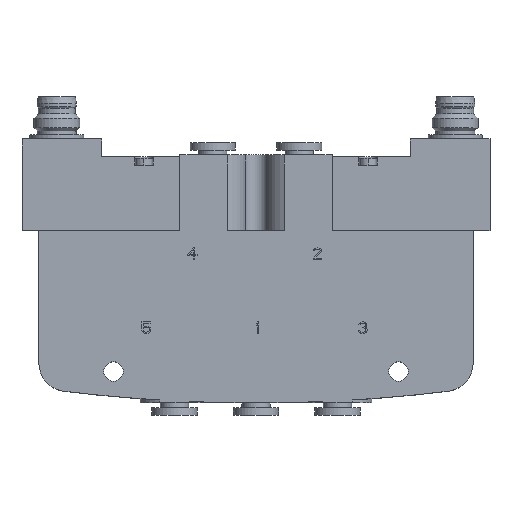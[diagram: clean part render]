
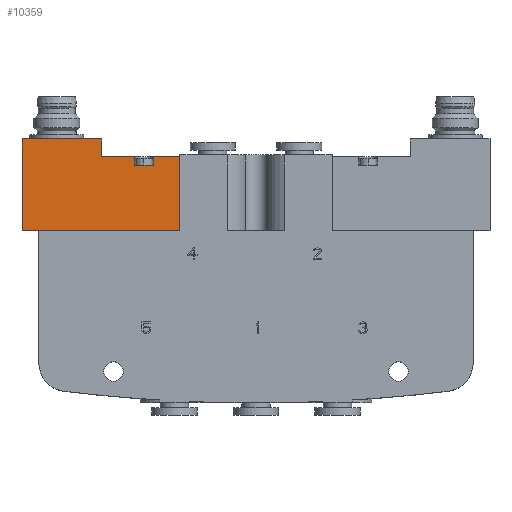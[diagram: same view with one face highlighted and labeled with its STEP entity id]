
A CAD part, top view. The second image highlights one B-rep face of the part: STEP entity #10359.
In plain terms, the highlighted planar face has unit normal (0, 0, 1) as drawn and (0, 1, 0) by its records, which use the part's own axes.
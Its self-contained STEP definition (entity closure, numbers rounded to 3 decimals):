
#9559=DIRECTION('',(1.,0.,0.));
#9560=VECTOR('',#9559,14.);
#9561=CARTESIAN_POINT('',(-14.,5.,16.1));
#9562=LINE('',#9561,#9560);
#9563=DIRECTION('',(0.,0.,1.));
#9564=VECTOR('',#9563,3.1);
#9565=CARTESIAN_POINT('',(-14.,5.,13.));
#9566=LINE('',#9565,#9564);
#9567=DIRECTION('',(1.,0.,0.));
#9568=VECTOR('',#9567,5.8);
#9569=CARTESIAN_POINT('',(-19.8,5.,13.));
#9570=LINE('',#9569,#9568);
#9571=DIRECTION('',(0.,0.,-1.));
#9572=VECTOR('',#9571,1.5);
#9573=CARTESIAN_POINT('',(-19.8,5.,13.));
#9574=LINE('',#9573,#9572);
#9575=DIRECTION('',(-1.,0.,0.));
#9576=VECTOR('',#9575,3.2);
#9577=CARTESIAN_POINT('',(-19.8,5.,11.5));
#9578=LINE('',#9577,#9576);
#9579=DIRECTION('',(0.,0.,-1.));
#9580=VECTOR('',#9579,1.5);
#9581=CARTESIAN_POINT('',(-23.,5.,13.));
#9582=LINE('',#9581,#9580);
#9583=DIRECTION('',(1.,0.,0.));
#9584=VECTOR('',#9583,4.6);
#9585=CARTESIAN_POINT('',(-27.6,5.,13.));
#9586=LINE('',#9585,#9584);
#9587=DIRECTION('',(0.,0.,1.));
#9588=VECTOR('',#9587,13.);
#9589=CARTESIAN_POINT('',(-27.6,5.,0.));
#9590=LINE('',#9589,#9588);
#9591=DIRECTION('',(-1.,0.,0.));
#9592=VECTOR('',#9591,27.6);
#9593=CARTESIAN_POINT('',(0.,5.,0.));
#9594=LINE('',#9593,#9592);
#9603=DIRECTION('',(0.,0.,-1.));
#9604=VECTOR('',#9603,16.1);
#9605=CARTESIAN_POINT('',(0.,5.,16.1));
#9606=LINE('',#9605,#9604);
#10017=CARTESIAN_POINT('',(0.,5.,0.));
#10018=CARTESIAN_POINT('',(-27.6,5.,0.));
#10019=VERTEX_POINT('',#10017);
#10020=VERTEX_POINT('',#10018);
#10021=CARTESIAN_POINT('',(-27.6,5.,13.));
#10022=VERTEX_POINT('',#10021);
#10039=CARTESIAN_POINT('',(-19.8,5.,11.5));
#10040=CARTESIAN_POINT('',(-23.,5.,11.5));
#10041=VERTEX_POINT('',#10039);
#10042=VERTEX_POINT('',#10040);
#10043=CARTESIAN_POINT('',(-19.8,5.,13.));
#10044=VERTEX_POINT('',#10043);
#10045=CARTESIAN_POINT('',(-23.,5.,13.));
#10046=VERTEX_POINT('',#10045);
#10091=CARTESIAN_POINT('',(-14.,5.,16.1));
#10092=CARTESIAN_POINT('',(0.,5.,16.1));
#10093=VERTEX_POINT('',#10091);
#10094=VERTEX_POINT('',#10092);
#10096=CARTESIAN_POINT('',(-14.,5.,13.));
#10098=VERTEX_POINT('',#10096);
#10335=CARTESIAN_POINT('',(0.,5.,0.));
#10336=DIRECTION('',(0.,1.,0.));
#10337=DIRECTION('',(0.,0.,-1.));
#10338=AXIS2_PLACEMENT_3D('',#10335,#10336,#10337);
#10339=PLANE('',#10338);
#10341=ORIENTED_EDGE('',*,*,#10340,.F.);
#10343=ORIENTED_EDGE('',*,*,#10342,.F.);
#10344=ORIENTED_EDGE('',*,*,#10327,.F.);
#10345=ORIENTED_EDGE('',*,*,#10240,.F.);
#10347=ORIENTED_EDGE('',*,*,#10346,.T.);
#10349=ORIENTED_EDGE('',*,*,#10348,.T.);
#10351=ORIENTED_EDGE('',*,*,#10350,.F.);
#10352=ORIENTED_EDGE('',*,*,#10232,.F.);
#10354=ORIENTED_EDGE('',*,*,#10353,.F.);
#10356=ORIENTED_EDGE('',*,*,#10355,.F.);
#10357=EDGE_LOOP('',(#10341,#10343,#10344,#10345,#10347,#10349,#10351,#10352,
#10354,#10356));
#10358=FACE_OUTER_BOUND('',#10357,.F.);
#10359=ADVANCED_FACE('',(#10358),#10339,.T.);
#10232=EDGE_CURVE('',#10022,#10046,#9586,.T.);
#10240=EDGE_CURVE('',#10044,#10098,#9570,.T.);
#10327=EDGE_CURVE('',#10098,#10093,#9566,.T.);
#10340=EDGE_CURVE('',#10094,#10019,#9606,.T.);
#10342=EDGE_CURVE('',#10093,#10094,#9562,.T.);
#10346=EDGE_CURVE('',#10044,#10041,#9574,.T.);
#10348=EDGE_CURVE('',#10041,#10042,#9578,.T.);
#10350=EDGE_CURVE('',#10046,#10042,#9582,.T.);
#10353=EDGE_CURVE('',#10020,#10022,#9590,.T.);
#10355=EDGE_CURVE('',#10019,#10020,#9594,.T.);
